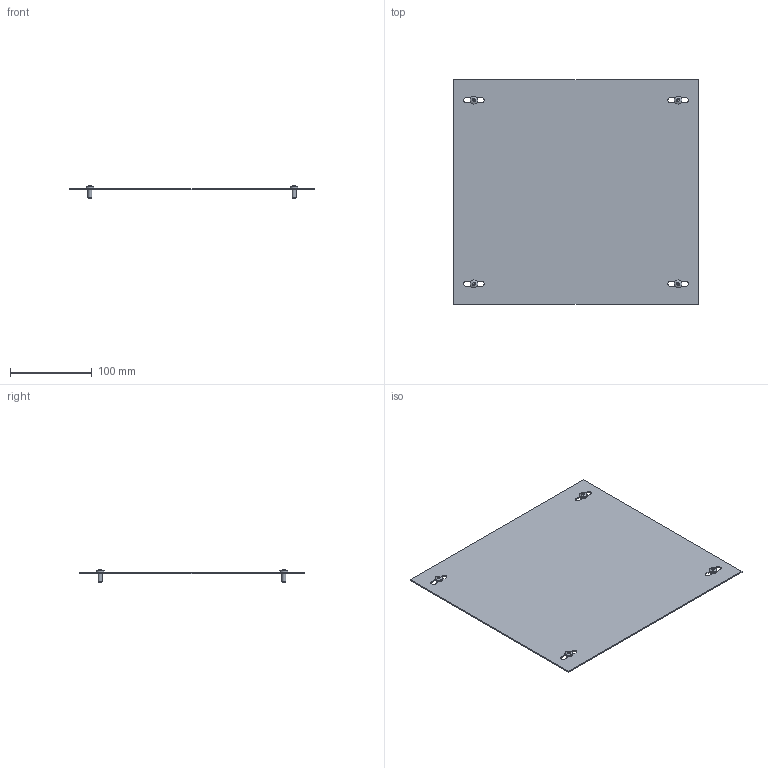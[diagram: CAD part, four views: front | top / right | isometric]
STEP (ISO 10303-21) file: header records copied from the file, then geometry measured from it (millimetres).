
FILE_DESCRIPTION(('Open CASCADE Model'),'2;1');
FILE_NAME('Open CASCADE Shape Model','2025-03-28T17:53:15',('Author'),( 'Open CASCADE'),'Open CASCADE STEP processor 7.8','Open CASCADE 7.8' ,'Unknown');
FILE_SCHEMA(('AUTOMOTIVE_DESIGN { 1 0 10303 214 1 1 1 1 }'));
Length unit declared in the file: millimetre
Products named in the file (3): Compound1; Solid1; Solid2
Assembly tree (5 placements, depth 2):
  Compound1
    Solid1
    Solid2  x4
Bounding box: 300 x 275 x 15.56 mm (x, y, z)
Volume: 124525.7 mm3; surface area: 167542.5 mm2
Topology: 5 solids, 5 shells, 86 faces, 180 edges, 108 vertices
Faces by surface type: plane 46, cylinder 16, torus 8, cone 8, sphere 4, bspline 4
Full cylindrical faces by diameter (mm): 5 x4, 9.5 x4
Entity records: 1508 total; most frequent: CARTESIAN_POINT 562, DIRECTION 190, ORIENTED_EDGE 178, EDGE_CURVE 89, AXIS2_PLACEMENT_3D 73, VERTEX_POINT 57, FACE_BOUND 48, EDGE_LOOP 48
